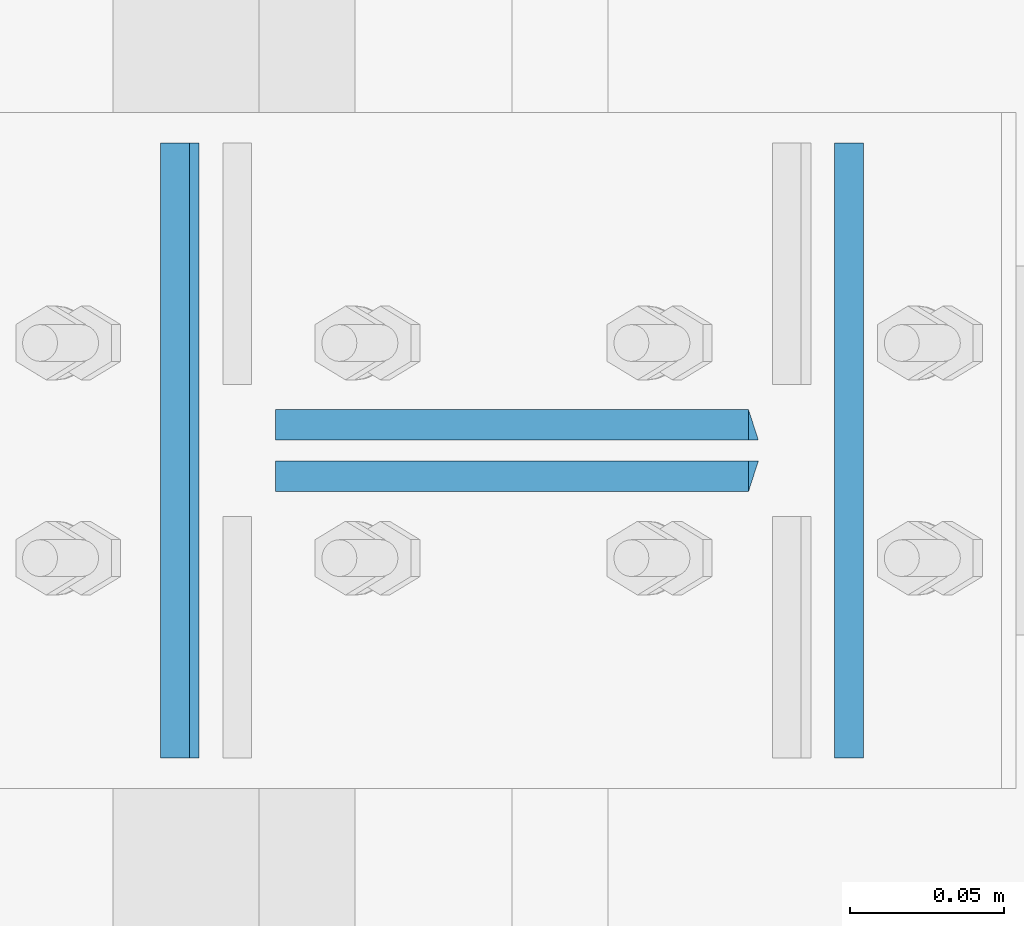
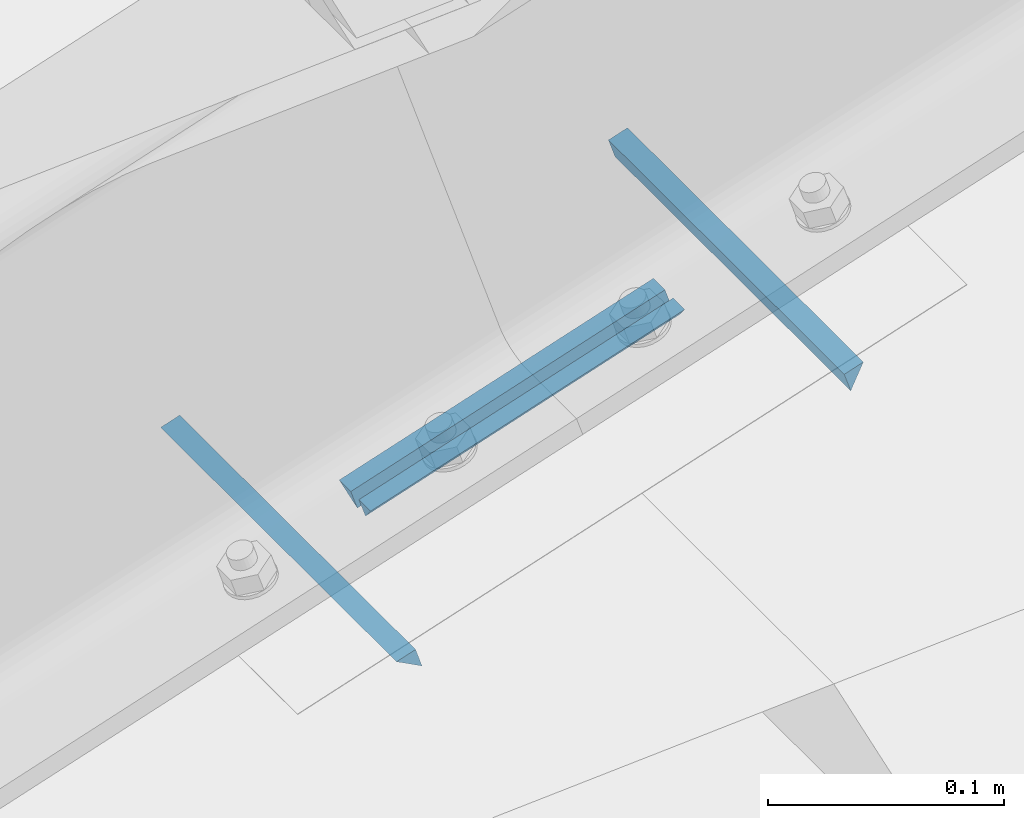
# One storey, part 13 of 53: 8 fasteners.
"""IFC4 building model written with IfcOpenShell, lengths in metres."""

from ifc_helpers import new_model, si_unit, frame, origin_with_axes, place, context, project, spatial, polyline, outline, extrude, type_object, element, save


model = new_model("IFC4")

# Units and contexts
model_context = context("Model", 3, precision=1e-05, world=origin_with_axes())
ifc_project = project(units=[si_unit("LENGTHUNIT", "METRE"), si_unit("AREAUNIT", "SQUARE_METRE"), si_unit("VOLUMEUNIT", "CUBIC_METRE"), si_unit("MASSUNIT", "GRAM", prefix="KILO"), si_unit("TIMEUNIT", "SECOND"), si_unit("PLANEANGLEUNIT", "RADIAN"), si_unit("SOLIDANGLEUNIT", "STERADIAN"), si_unit("THERMODYNAMICTEMPERATUREUNIT", "DEGREE_CELSIUS")], contexts=[model_context])

# Site, building, storey
placement_1 = place(None, origin_with_axes())
site = spatial("IfcSite", under=ifc_project, at=placement_1, Name="Italia", CompositionType="ELEMENT")
building = spatial("IfcBuilding", under=site, at=placement_1, Name="Capannone", CompositionType="ELEMENT")
storey_placement = place(None, frame((0.0, 0.0, 5.550000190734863), z_axis=(0.0, 0.0, 1.0), x_axis=(1.0, 0.0, 0.0)))
storey = spatial("IfcBuildingStorey", under=building, at=storey_placement, Name="Storey 1", CompositionType="ELEMENT", Elevation=5.550000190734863)

# Fasteners
fastener_type_1 = type_object("IfcFastenerType", Name="Collegamenti 0101_0001 0103_0003 0105_0005 0107_0007 0109_0009 0111_0011", PredefinedType="WELD")
placement_2 = place(placement_1, origin_with_axes())
fastener_1_placement = place(placement_2, origin_with_axes())
element("IfcFastener", 1, at=fastener_1_placement, inside=storey, type_object=fastener_type_1, Name="Collegamenti 0101_0001 0103_0003 0105_0005 0107_0007 0109_0009 0111_0011", context=model_context, shape_type="SweptSolid", body=[
    extrude(outline(polyline([(0.0, 0.0), (-0.0125507, -0.00658464), (-0.00937506, 0.00308037), (0.0, 0.0)])), frame((-0.114344, 5.89995, 5.49669), z_axis=(0.0, 1.0, 0.0), x_axis=(-1.0, 0.0, 0.0)), (0.0, 0.0, 1.0), 0.2001),
])
fastener_type_2 = type_object("IfcFastenerType", Name="Collegamenti 0101_0001 0103_0003 0105_0005 0107_0007 0109_0009 0111_0011", PredefinedType="WELD")
fastener_2_placement = place(placement_2, origin_with_axes())
element("IfcFastener", 2, at=fastener_2_placement, inside=storey, type_object=fastener_type_2, Name="Collegamenti 0101_0001 0103_0003 0105_0005 0107_0007 0109_0009 0111_0011", context=model_context, shape_type="SweptSolid", body=[
    extrude(outline(polyline([(0.0, 0.0), (-0.00619942, -0.0127454), (-0.00937507, -0.00308037), (0.0, 0.0)])), frame((0.114311, 6.10005, 5.57182), z_axis=(0.0, -1.0, 0.0), x_axis=(1.0, 0.0, 0.0)), (0.0, 0.0, 1.0), 0.2001),
])
fastener_type_3 = type_object("IfcFastenerType", Name="Collegamenti 0101_0001 0103_0003 0105_0005 0107_0007 0109_0009 0111_0011", PredefinedType="WELD")
fastener_3_placement = place(placement_2, origin_with_axes())
element("IfcFastener", 3, at=fastener_3_placement, inside=storey, type_object=fastener_type_3, Name="Collegamenti 0101_0001 0103_0003 0105_0005 0107_0007 0109_0009 0111_0011", context=model_context, shape_type="SweptSolid", body=[
    extrude(outline(polyline([(0.0, 0.0), (-0.00986814, -0.0101733), (-0.00986814, 0.0), (0.0, 0.0)])), frame((-0.076963, 6.01332, 5.50898), z_axis=(0.950031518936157, 0.0, 0.312153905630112), x_axis=(0.0, 1.0, 0.0)), (0.0, 0.0, 1.0), 0.161988),
])
fastener_type_4 = type_object("IfcFastenerType", Name="Collegamenti 0101_0001 0103_0003 0105_0005 0107_0007 0109_0009 0111_0011", PredefinedType="WELD")
fastener_4_placement = place(placement_2, origin_with_axes())
element("IfcFastener", 4, at=fastener_4_placement, inside=storey, type_object=fastener_type_4, Name="Collegamenti 0101_0001 0103_0003 0105_0005 0107_0007 0109_0009 0111_0011", context=model_context, shape_type="SweptSolid", body=[
    extrude(outline(polyline([(0.0, 0.0), (-0.00986814, -0.0101728), (-0.00986814, 0.0), (0.0, 0.0)])), frame((0.0769309, 5.98668, 5.55954), z_axis=(-0.950031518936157, 0.0, -0.312153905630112), x_axis=(0.0, -1.0, 0.0)), (0.0, 0.0, 1.0), 0.161988),
])
fastener_type_5 = type_object("IfcFastenerType", Name="Collegamenti 0101_0001 0103_0003 0105_0005 0107_0007 0109_0009 0111_0011", PredefinedType="WELD")
fastener_5_placement = place(placement_2, origin_with_axes())
element("IfcFastener", 5, at=fastener_5_placement, inside=storey, type_object=fastener_type_5, Name="Collegamenti 0101_0001 0103_0003 0105_0005 0107_0007 0109_0009 0111_0011", context=model_context, shape_type="SweptSolid", body=[
    extrude(outline(polyline([(0.0, 0.0), (-0.0125507, -0.00658464), (-0.00937506, 0.00308037), (0.0, 0.0)])), frame((-0.114344, 5.89995, 5.49669), z_axis=(0.0, 1.0, 0.0), x_axis=(-1.0, 0.0, 0.0)), (0.0, 0.0, 1.0), 0.2001),
])
fastener_type_6 = type_object("IfcFastenerType", Name="Collegamenti 0101_0001 0103_0003 0105_0005 0107_0007 0109_0009 0111_0011", PredefinedType="WELD")
fastener_6_placement = place(placement_2, origin_with_axes())
element("IfcFastener", 6, at=fastener_6_placement, inside=storey, type_object=fastener_type_6, Name="Collegamenti 0101_0001 0103_0003 0105_0005 0107_0007 0109_0009 0111_0011", context=model_context, shape_type="SweptSolid", body=[
    extrude(outline(polyline([(0.0, 0.0), (-0.00619942, -0.0127454), (-0.00937507, -0.00308037), (0.0, 0.0)])), frame((0.114311, 6.10005, 5.57182), z_axis=(0.0, -1.0, 0.0), x_axis=(1.0, 0.0, 0.0)), (0.0, 0.0, 1.0), 0.2001),
])
fastener_type_7 = type_object("IfcFastenerType", Name="Collegamenti 0101_0001 0103_0003 0105_0005 0107_0007 0109_0009 0111_0011", PredefinedType="WELD")
fastener_7_placement = place(placement_2, origin_with_axes())
element("IfcFastener", 7, at=fastener_7_placement, inside=storey, type_object=fastener_type_7, Name="Collegamenti 0101_0001 0103_0003 0105_0005 0107_0007 0109_0009 0111_0011", context=model_context, shape_type="SweptSolid", body=[
    extrude(outline(polyline([(0.0, 0.0), (-0.00986814, -0.0101733), (-0.00986814, 0.0), (0.0, 0.0)])), frame((-0.076963, 6.01332, 5.50898), z_axis=(0.950031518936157, 0.0, 0.312153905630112), x_axis=(0.0, 1.0, 0.0)), (0.0, 0.0, 1.0), 0.161988),
])
fastener_type_8 = type_object("IfcFastenerType", Name="Collegamenti 0101_0001 0103_0003 0105_0005 0107_0007 0109_0009 0111_0011", PredefinedType="WELD")
fastener_8_placement = place(placement_2, origin_with_axes())
element("IfcFastener", 8, at=fastener_8_placement, inside=storey, type_object=fastener_type_8, Name="Collegamenti 0101_0001 0103_0003 0105_0005 0107_0007 0109_0009 0111_0011", context=model_context, shape_type="SweptSolid", body=[
    extrude(outline(polyline([(0.0, 0.0), (-0.00986814, -0.0101728), (-0.00986814, 0.0), (0.0, 0.0)])), frame((0.0769309, 5.98668, 5.55954), z_axis=(-0.950031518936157, 0.0, -0.312153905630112), x_axis=(0.0, -1.0, 0.0)), (0.0, 0.0, 1.0), 0.161988),
])

save(model, "model.ifc")
